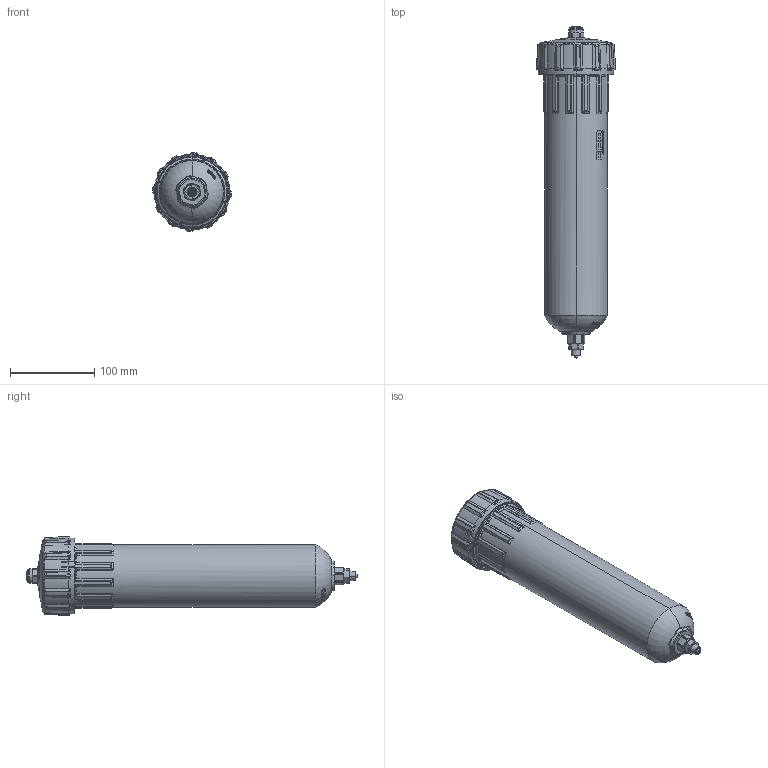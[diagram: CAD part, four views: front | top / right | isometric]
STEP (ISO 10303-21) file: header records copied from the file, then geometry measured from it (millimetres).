
FILE_DESCRIPTION (( 'STEP AP214' ), '1' );
FILE_NAME ('NORDSONEFD-7013899 RETAINER SYS O 32OZ CL BL.STEP', '2019-01-03T10:59:43', ( '' ), ( '' ), 'SwSTEP 2.0', 'SolidWorks 2018', '' );
FILE_SCHEMA (( 'AUTOMOTIVE_DESIGN' ));
Length unit declared in the file: inch
Products named in the file (1): NORDSONEFD-7013899  RETAINER SYS O 32OZ CL BL
Bounding box: 93.22 x 393.24 x 93.22 mm (x, y, z)
Volume: 491509 mm3; surface area: 363569.9 mm2
Topology: 5 solids, 5 shells, 3608 faces, 9055 edges, 5505 vertices
Faces by surface type: bspline 1411, plane 913, cylinder 502, torus 440, cone 240, sphere 102
Entity records: 158153 total; most frequent: CARTESIAN_POINT 83680, ORIENTED_EDGE 17908, DIRECTION 11786, EDGE_CURVE 8954, VERTEX_POINT 5505, AXIS2_PLACEMENT_3D 4742, B_SPLINE_CURVE_WITH_KNOTS 3888, EDGE_LOOP 3769
